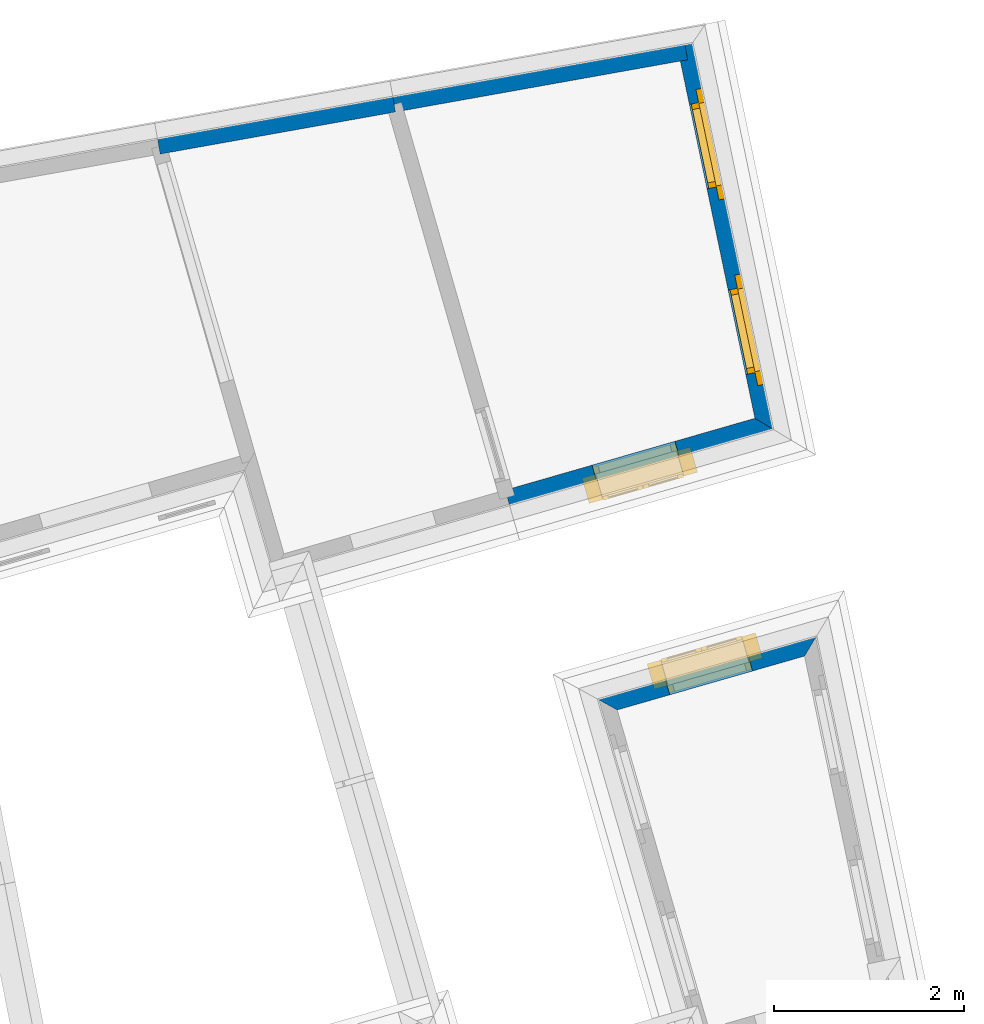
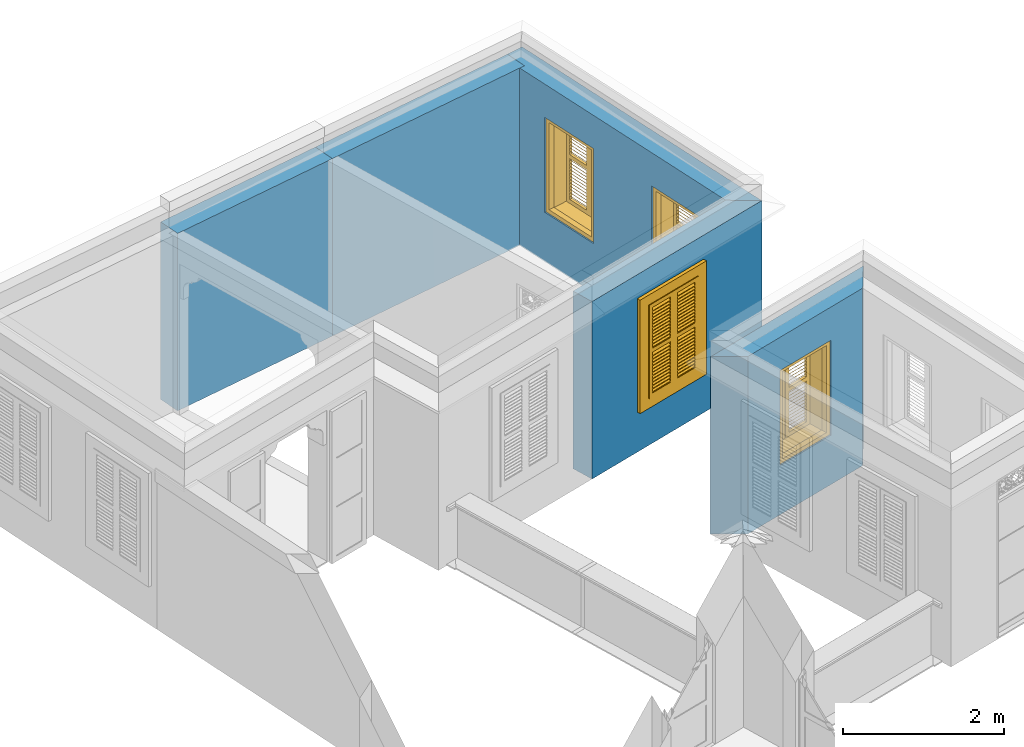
# One storey, part 18 of 22: 5 walls, 4 windows, 4 openings.
"""IFC4 building model written with IfcOpenShell, lengths in metres."""

from ifc_helpers import new_model, si_unit, frame, origin, origin_with_axes, place, context, subcontext, project, spatial, polyline, outline, extrude, faceted_brep, source, transform, mapped, material, layer, layer_set, layer_usage, type_object, type_shapes, element, fill, save


model = new_model("IFC4")

# Units and contexts
model_context = context("Model", 3, world=origin_with_axes())
body_context = subcontext(model_context, "Body", "Model", "MODEL_VIEW")
ifc_project = project(units=[si_unit("PLANEANGLEUNIT", "RADIAN"), si_unit("MASSUNIT", "GRAM", prefix="KILO"), si_unit("FORCEUNIT", "NEWTON", prefix="KILO"), si_unit("LENGTHUNIT", "METRE"), si_unit("AREAUNIT", "SQUARE_METRE"), si_unit("VOLUMEUNIT", "CUBIC_METRE")], contexts=[model_context, model_context])

# Site, building, storey
site_placement = place(None, origin_with_axes())
site = spatial("IfcSite", under=ifc_project, at=site_placement, Name="Site plot-9", CompositionType="ELEMENT")
building_placement = place(None, origin_with_axes())
building = spatial("IfcBuilding", under=site, at=building_placement, Name="Building plot-9", CompositionType="ELEMENT")
storey_placement = place(None, frame((0.0, 0.0, 2.85), z_axis=(0.0, 0.0, 1.0), x_axis=(1.0, 0.0, 0.0)))
storey = spatial("IfcBuildingStorey", under=building, at=storey_placement, Name="plot-9 1", CompositionType="ELEMENT", Elevation=2.85)

# Wall, opening, window
ifc_material_1 = material(Name="Masonry")
ifc_layer_1 = layer(ifc_material_1, 0.33, ventilated=False)
ifc_layer_set_1 = layer_set([ifc_layer_1], Name="exterior_0.08_0.25")
ifc_layer_usage_1 = layer_usage(ifc_layer_set_1, "AXIS2", "POSITIVE", -0.25)
wall_type_1 = type_object("IfcWallType", Name="exterior_0.08_0.25", PredefinedType="SOLIDWALL", material=ifc_layer_set_1)
wall_1_placement = place(storey_placement, frame((-13.1564729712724, 2.80443784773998, 0.0), z_axis=(0.0, 0.0, 1.0), x_axis=(-0.961007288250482, -0.27652304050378, 0.0)))
wall_1 = element("IfcWall", 1, at=wall_1_placement, inside=storey, type_object=wall_type_1, material=ifc_layer_usage_1, Name="exterior", context=body_context, shape_type="SweptSolid", body=[
    extrude(outline(polyline([(0.0861799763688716, 0.0800000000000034), (-0.269312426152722, -0.25), (2.47325596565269, -0.250000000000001), (2.14325596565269, 0.0799999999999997), (0.0861799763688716, 0.0800000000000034)])), origin_with_axes(), (0.0, 0.0, 1.0), 2.7),
])
opening_1_placement = place(wall_1_placement, frame((0.656627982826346, 0.0, 0.75)))
opening_1 = element("IfcOpeningElement", 2, at=opening_1_placement, cuts=wall_1, Name="My Opening", ObjectType="Opening", context=body_context, shape_type="SweptSolid", body=[
    extrude(outline(polyline([(0.0, -0.27), (0.910000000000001, -0.27), (0.910000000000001, 1.1), (1.11022302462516e-16, 1.1), (0.0, -0.27)])), origin_with_axes(), (0.0, 0.0, 1.0), 1.445),
])
window_type = type_object("IfcWindowType", Name="shuttered_shorter", PartitioningType="DOUBLE_PANEL_HORIZONTAL", PredefinedType="NOTDEFINED")
shared_shape = source(origin(), body_context, "Body", "Brep", [
    faceted_brep([(0.393, 0.0, 0.622), (0.074, 0.0, 0.622), (0.074, 0.0, 0.632), (0.393, 0.0, 0.632), (0.074, -0.04, 0.592), (0.393, -0.04, 0.592), (0.393, -0.04, 0.582), (0.074, -0.04, 0.582), (0.517, 0.0, 0.682), (0.836, 0.0, 0.682), (0.836, 0.0, 0.672), (0.517, 0.0, 0.672), (0.517, -0.04, 0.642), (0.836, -0.04, 0.642), (0.836, -0.04, 0.632), (0.517, -0.04, 0.632), (0.517, 0.0, 0.632), (0.836, 0.0, 0.632), (0.836, 0.0, 0.622), (0.517, 0.0, 0.622), (0.517, -0.04, 0.592), (0.836, -0.04, 0.592), (0.836, -0.04, 0.582), (0.517, -0.04, 0.582), (0.517, 0.0, 0.232), (0.836, 0.0, 0.232), (0.836, 0.0, 0.222), (0.517, 0.0, 0.222), (0.517, -0.04, 0.192), (0.836, -0.04, 0.192), (0.836, -0.04, 0.182), (0.517, -0.04, 0.182), (0.517, 0.0, 0.532), (0.836, 0.0, 0.532), (0.836, 0.0, 0.522), (0.517, 0.0, 0.522), (0.517, -0.04, 0.492), (0.836, -0.04, 0.492), (0.836, -0.04, 0.482), (0.517, -0.04, 0.482), (0.517, 0.0, 0.482), (0.836, 0.0, 0.482), (0.836, 0.0, 0.472), (0.517, 0.0, 0.472), (0.517, -0.04, 0.442), (0.836, -0.04, 0.442), (0.836, -0.04, 0.432), (0.517, -0.04, 0.432), (0.517, 0.0, 0.582), (0.836, 0.0, 0.582), (0.836, 0.0, 0.572), (0.517, 0.0, 0.572), (0.517, -0.04, 0.542), (0.836, -0.04, 0.542), (0.836, -0.04, 0.532), (0.517, -0.04, 0.532), (0.517, 0.0, 0.182), (0.836, 0.0, 0.182), (0.836, 0.0, 0.172), (0.517, 0.0, 0.172), (0.517, -0.04, 0.142), (0.836, -0.04, 0.142), (0.836, -0.04, 0.132), (0.517, -0.04, 0.132), (0.517, 0.0, 0.382), (0.836, 0.0, 0.382), (0.836, 0.0, 0.372), (0.517, 0.0, 0.372), (0.517, -0.04, 0.342), (0.836, -0.04, 0.342), (0.836, -0.04, 0.332), (0.517, -0.04, 0.332), (0.517, 0.0, 0.432), (0.836, 0.0, 0.432), (0.836, 0.0, 0.422), (0.517, 0.0, 0.422), (0.517, -0.04, 0.392), (0.836, -0.04, 0.392), (0.836, -0.04, 0.382), (0.517, -0.04, 0.382), (0.517, 0.0, 0.132), (0.836, 0.0, 0.132), (0.836, 0.0, 0.122), (0.517, 0.0, 0.122), (0.517, -0.04, 0.092), (0.836, -0.04, 0.092), (0.836, -0.04, 0.082), (0.517, -0.04, 0.082), (0.517, 0.0, 0.282), (0.836, 0.0, 0.282), (0.836, 0.0, 0.272), (0.517, 0.0, 0.272), (0.517, -0.04, 0.242), (0.836, -0.04, 0.242), (0.836, -0.04, 0.232), (0.517, -0.04, 0.232), (0.517, 0.0, 0.332), (0.836, 0.0, 0.332), (0.836, 0.0, 0.322), (0.517, 0.0, 0.322), (0.517, -0.04, 0.292), (0.836, -0.04, 0.292), (0.836, -0.04, 0.282), (0.517, -0.04, 0.282), (0.517, 0.0, 1.362667), (0.836, 0.0, 1.362667), (0.836, 0.0, 1.352667), (0.517, 0.0, 1.352667), (0.517, -0.04, 1.322667), (0.836, -0.04, 1.322667), (0.836, -0.04, 1.312667), (0.517, -0.04, 1.312667), (0.517, 0.0, 1.312667), (0.836, 0.0, 1.312667), (0.836, 0.0, 1.302667), (0.517, 0.0, 1.302667), (0.517, -0.04, 1.272667), (0.836, -0.04, 1.272667), (0.836, -0.04, 1.262667), (0.517, -0.04, 1.262667), (0.517, 0.0, 0.912667), (0.836, 0.0, 0.912667), (0.836, 0.0, 0.902667), (0.517, 0.0, 0.902667), (0.517, -0.04, 0.872667), (0.836, -0.04, 0.872667), (0.836, -0.04, 0.862667), (0.517, -0.04, 0.862667), (0.517, 0.0, 1.212667), (0.836, 0.0, 1.212667), (0.836, 0.0, 1.202667), (0.517, 0.0, 1.202667), (0.517, -0.04, 1.172667), (0.836, -0.04, 1.172667), (0.836, -0.04, 1.162667), (0.517, -0.04, 1.162667), (0.517, 0.0, 1.162667), (0.836, 0.0, 1.162667), (0.836, 0.0, 1.152667), (0.517, 0.0, 1.152667), (0.517, -0.04, 1.122667), (0.836, -0.04, 1.122667), (0.836, -0.04, 1.112667), (0.517, -0.04, 1.112667), (0.517, 0.0, 1.262667), (0.836, 0.0, 1.262667), (0.836, 0.0, 1.252667), (0.517, 0.0, 1.252667), (0.517, -0.04, 1.222667), (0.836, -0.04, 1.222667), (0.836, -0.04, 1.212667), (0.517, -0.04, 1.212667), (0.517, 0.0, 0.862667), (0.836, 0.0, 0.862667), (0.836, 0.0, 0.852667), (0.517, 0.0, 0.852667), (0.517, -0.04, 0.822667), (0.836, -0.04, 0.822667), (0.836, -0.04, 0.812667), (0.517, -0.04, 0.812667), (0.517, 0.0, 1.062667), (0.836, 0.0, 1.062667), (0.836, 0.0, 1.052667), (0.517, 0.0, 1.052667), (0.517, -0.04, 1.022667), (0.836, -0.04, 1.022667), (0.836, -0.04, 1.012667), (0.517, -0.04, 1.012667), (0.517, 0.0, 1.112667), (0.836, 0.0, 1.112667), (0.836, 0.0, 1.102667), (0.517, 0.0, 1.102667), (0.517, -0.04, 1.072667), (0.836, -0.04, 1.072667), (0.836, -0.04, 1.062667), (0.517, -0.04, 1.062667), (0.517, 0.0, 0.812667), (0.836, 0.0, 0.812667), (0.836, 0.0, 0.802667), (0.517, 0.0, 0.802667), (0.517, -0.04, 0.772667), (0.836, -0.04, 0.772667), (0.836, -0.04, 0.762667), (0.517, -0.04, 0.762667), (0.517, 0.0, 0.962667), (0.836, 0.0, 0.962667), (0.836, 0.0, 0.952667), (0.517, 0.0, 0.952667), (0.517, -0.04, 0.922667), (0.836, -0.04, 0.922667), (0.836, -0.04, 0.912667), (0.517, -0.04, 0.912667), (0.517, 0.0, 1.012667), (0.836, 0.0, 1.012667), (0.836, 0.0, 1.002667), (0.517, 0.0, 1.002667), (0.517, -0.04, 0.972667), (0.836, -0.04, 0.972667), (0.836, -0.04, 0.962667), (0.517, -0.04, 0.962667), (0.074, 0.0, 0.682), (0.393, 0.0, 0.682), (0.393, 0.0, 0.672), (0.074, 0.0, 0.672), (0.074, -0.04, 0.642), (0.393, -0.04, 0.642), (0.393, -0.04, 0.632), (0.074, -0.04, 0.632), (0.074, 0.0, 0.232), (0.393, 0.0, 0.232), (0.393, 0.0, 0.222), (0.074, 0.0, 0.222), (0.074, -0.04, 0.192), (0.393, -0.04, 0.192), (0.393, -0.04, 0.182), (0.074, -0.04, 0.182), (0.074, 0.0, 0.532), (0.393, 0.0, 0.532), (0.393, 0.0, 0.522), (0.074, 0.0, 0.522), (0.074, -0.04, 0.492), (0.393, -0.04, 0.492), (0.393, -0.04, 0.482), (0.074, -0.04, 0.482), (0.074, 0.0, 0.482), (0.393, 0.0, 0.482), (0.393, 0.0, 0.472), (0.074, 0.0, 0.472), (0.074, -0.04, 0.442), (0.393, -0.04, 0.442), (0.393, -0.04, 0.432), (0.074, -0.04, 0.432), (0.074, 0.0, 0.582), (0.393, 0.0, 0.582), (0.393, 0.0, 0.572), (0.074, 0.0, 0.572), (0.074, -0.04, 0.542), (0.393, -0.04, 0.542), (0.393, -0.04, 0.532), (0.074, -0.04, 0.532), (0.074, 0.0, 0.182), (0.393, 0.0, 0.182), (0.393, 0.0, 0.172), (0.074, 0.0, 0.172), (0.074, -0.04, 0.142), (0.393, -0.04, 0.142), (0.393, -0.04, 0.132), (0.074, -0.04, 0.132), (0.074, 0.0, 0.382), (0.393, 0.0, 0.382), (0.393, 0.0, 0.372), (0.074, 0.0, 0.372), (0.074, -0.04, 0.342), (0.393, -0.04, 0.342), (0.393, -0.04, 0.332), (0.074, -0.04, 0.332), (0.074, 0.0, 0.432), (0.393, 0.0, 0.432), (0.393, 0.0, 0.422), (0.074, 0.0, 0.422), (0.074, -0.04, 0.392), (0.393, -0.04, 0.392), (0.393, -0.04, 0.382), (0.074, -0.04, 0.382), (0.074, 0.0, 0.132), (0.393, 0.0, 0.132), (0.393, 0.0, 0.122), (0.074, 0.0, 0.122), (0.074, -0.04, 0.092), (0.393, -0.04, 0.092), (0.393, -0.04, 0.082), (0.074, -0.04, 0.082), (0.074, 0.0, 0.282), (0.393, 0.0, 0.282), (0.393, 0.0, 0.272), (0.074, 0.0, 0.272), (0.074, -0.04, 0.242), (0.393, -0.04, 0.242), (0.393, -0.04, 0.232), (0.074, -0.04, 0.232), (0.074, 0.0, 0.332), (0.393, 0.0, 0.332), (0.393, 0.0, 0.322), (0.074, 0.0, 0.322), (0.074, -0.04, 0.292), (0.393, -0.04, 0.292), (0.393, -0.04, 0.282), (0.074, -0.04, 0.282), (0.074, 0.0, 1.362667), (0.393, 0.0, 1.362667), (0.393, 0.0, 1.352667), (0.074, 0.0, 1.352667), (0.074, -0.04, 1.322667), (0.393, -0.04, 1.322667), (0.393, -0.04, 1.312667), (0.074, -0.04, 1.312667), (0.074, 0.0, 1.312667), (0.393, 0.0, 1.312667), (0.393, 0.0, 1.302667), (0.074, 0.0, 1.302667), (0.074, -0.04, 1.272667), (0.393, -0.04, 1.272667), (0.393, -0.04, 1.262667), (0.074, -0.04, 1.262667), (0.074, 0.0, 0.912667), (0.393, 0.0, 0.912667), (0.393, 0.0, 0.902667), (0.074, 0.0, 0.902667), (0.074, -0.04, 0.872667), (0.393, -0.04, 0.872667), (0.393, -0.04, 0.862667), (0.074, -0.04, 0.862667), (0.074, 0.0, 1.212667), (0.393, 0.0, 1.212667), (0.393, 0.0, 1.202667), (0.074, 0.0, 1.202667), (0.074, -0.04, 1.172667), (0.393, -0.04, 1.172667), (0.393, -0.04, 1.162667), (0.074, -0.04, 1.162667), (0.074, 0.0, 1.162667), (0.393, 0.0, 1.162667), (0.393, 0.0, 1.152667), (0.074, 0.0, 1.152667), (0.074, -0.04, 1.122667), (0.393, -0.04, 1.122667), (0.393, -0.04, 1.112667), (0.074, -0.04, 1.112667), (0.074, 0.0, 1.262667), (0.393, 0.0, 1.262667), (0.393, 0.0, 1.252667), (0.074, 0.0, 1.252667), (0.074, -0.04, 1.222667), (0.393, -0.04, 1.222667), (0.393, -0.04, 1.212667), (0.074, -0.04, 1.212667), (0.074, 0.0, 0.862667), (0.393, 0.0, 0.862667), (0.393, 0.0, 0.852667), (0.074, 0.0, 0.852667), (0.074, -0.04, 0.822667), (0.393, -0.04, 0.822667), (0.393, -0.04, 0.812667), (0.074, -0.04, 0.812667), (0.074, 0.0, 1.062667), (0.393, 0.0, 1.062667), (0.393, 0.0, 1.052667), (0.074, 0.0, 1.052667), (0.074, -0.04, 1.022667), (0.393, -0.04, 1.022667), (0.393, -0.04, 1.012667), (0.074, -0.04, 1.012667), (0.074, 0.0, 1.112667), (0.393, 0.0, 1.112667), (0.393, 0.0, 1.102667), (0.074, 0.0, 1.102667), (0.074, -0.04, 1.072667), (0.393, -0.04, 1.072667), (0.393, -0.04, 1.062667), (0.074, -0.04, 1.062667), (0.074, 0.0, 0.812667), (0.393, 0.0, 0.812667), (0.393, 0.0, 0.802667), (0.074, 0.0, 0.802667), (0.074, -0.04, 0.772667), (0.393, -0.04, 0.772667), (0.393, -0.04, 0.762667), (0.074, -0.04, 0.762667), (0.074, 0.0, 0.962667), (0.393, 0.0, 0.962667), (0.393, 0.0, 0.952667), (0.074, 0.0, 0.952667), (0.074, -0.04, 0.922667), (0.393, -0.04, 0.922667), (0.393, -0.04, 0.912667), (0.074, -0.04, 0.912667), (0.074, 0.0, 1.012667), (0.393, 0.0, 1.012667), (0.393, 0.0, 1.002667), (0.074, 0.0, 1.002667), (0.074, -0.04, 0.972667), (0.393, -0.04, 0.972667), (0.393, -0.04, 0.962667), (0.074, -0.04, 0.962667), (0.517, -0.04, 0.072), (0.457, -0.04, 0.012), (0.896, -0.04, 0.012), (0.836, -0.04, 0.072), (0.457, -0.04, 0.692667), (0.517, -0.04, 0.692667), (0.457, 0.0, 0.012), (0.896, 0.0, 0.012), (0.836, -0.04, 0.692667), (0.896, -0.04, 0.692667), (0.836, 0.0, 0.072), (0.517, 0.0, 0.072), (0.457, 0.0, 0.692667), (0.517, 0.0, 0.692667), (0.517, -0.04, 0.752666), (0.457, -0.04, 0.752666), (0.896, 0.0, 0.692667), (0.836, 0.0, 0.692667), (0.836, -0.04, 0.752666), (0.896, -0.04, 0.752666), (0.457, 0.0, 0.752666), (0.457, -0.04, 1.433333), (0.517, -0.04, 1.373333), (0.896, 0.0, 0.752666), (0.836, -0.04, 1.373333), (0.896, -0.04, 1.433333), (0.457, 0.0, 1.433333), (0.517, 0.0, 0.752666), (0.836, 0.0, 0.752666), (0.517, 0.0, 1.373333), (0.896, 0.0, 1.433333), (0.836, 0.0, 1.373333), (0.074, -0.04, 0.072), (0.014, -0.04, 0.012), (0.453, -0.04, 0.012), (0.393, -0.04, 0.072), (0.014, -0.04, 0.692667), (0.074, -0.04, 0.692667), (0.014, 0.0, 0.012), (0.453, 0.0, 0.012), (0.393, -0.04, 0.692667), (0.453, -0.04, 0.692667), (0.393, 0.0, 0.072), (0.074, 0.0, 0.072), (0.014, 0.0, 0.692667), (0.074, 0.0, 0.692667), (0.074, -0.04, 0.752666), (0.014, -0.04, 0.752666), (0.453, 0.0, 0.692667), (0.393, 0.0, 0.692667), (0.393, -0.04, 0.752666), (0.453, -0.04, 0.752666), (0.014, 0.0, 0.752666), (0.014, -0.04, 1.433333), (0.074, -0.04, 1.373333), (0.453, 0.0, 0.752666), (0.393, -0.04, 1.373333), (0.453, -0.04, 1.433333), (0.014, 0.0, 1.433333), (0.074, 0.0, 0.752666), (0.393, 0.0, 0.752666), (0.074, 0.0, 1.373333), (0.453, 0.0, 1.433333), (0.393, 0.0, 1.373333), (0.0, 0.33, 1.445), (0.91, 0.33, 1.445), (0.85, 0.33, 1.385), (0.06, 0.33, 1.385), (0.91, 0.25, 1.445), (0.0, 0.25, 1.445), (0.91, 0.25, 1.445), (0.85, 0.33, 0.06), (0.91, 0.33, 0.0), (0.85, 0.25, 1.385), (0.06, 0.25, 1.385), (0.0, 0.33, 0.0), (0.06, 0.33, 0.06), (0.0, 0.25, 0.0), (0.91, 0.25, 0.0), (0.85, 0.25, 0.06), (0.06, 0.25, 0.06), (1.05, 0.25, 1.585), (-0.14, 0.25, 1.585), (-0.14, -0.03, 1.585), (1.05, -0.03, 1.585), (0.9, -0.03, 1.435), (0.01, -0.03, 1.435), (0.01, 0.25, 1.435), (0.9, 0.25, 1.435), (0.9, 0.25, 0.01), (0.9, -0.03, 0.01), (1.05, -0.03, -0.14), (1.05, 0.25, -0.14), (0.01, -0.03, 0.01), (0.01, 0.25, 0.01), (-0.14, -0.03, -0.14), (-0.14, 0.25, -0.14)], [[[0, 1, 2, 3]], [[4, 5, 3, 2]], [[5, 6, 0, 3]], [[1, 0, 6, 7]], [[2, 1, 7, 4]], [[5, 4, 7, 6]], [[8, 9, 10, 11]], [[12, 13, 9, 8]], [[13, 14, 10, 9]], [[14, 15, 11, 10]], [[15, 12, 8, 11]], [[13, 12, 15, 14]], [[16, 17, 18, 19]], [[20, 21, 17, 16]], [[21, 22, 18, 17]], [[22, 23, 19, 18]], [[23, 20, 16, 19]], [[21, 20, 23, 22]], [[24, 25, 26, 27]], [[28, 29, 25, 24]], [[29, 30, 26, 25]], [[30, 31, 27, 26]], [[31, 28, 24, 27]], [[29, 28, 31, 30]], [[32, 33, 34, 35]], [[36, 37, 33, 32]], [[37, 38, 34, 33]], [[38, 39, 35, 34]], [[39, 36, 32, 35]], [[37, 36, 39, 38]], [[40, 41, 42, 43]], [[44, 45, 41, 40]], [[45, 46, 42, 41]], [[46, 47, 43, 42]], [[47, 44, 40, 43]], [[45, 44, 47, 46]], [[48, 49, 50, 51]], [[52, 53, 49, 48]], [[53, 54, 50, 49]], [[54, 55, 51, 50]], [[55, 52, 48, 51]], [[53, 52, 55, 54]], [[56, 57, 58, 59]], [[60, 61, 57, 56]], [[61, 62, 58, 57]], [[62, 63, 59, 58]], [[63, 60, 56, 59]], [[61, 60, 63, 62]], [[64, 65, 66, 67]], [[68, 69, 65, 64]], [[69, 70, 66, 65]], [[70, 71, 67, 66]], [[71, 68, 64, 67]], [[69, 68, 71, 70]], [[72, 73, 74, 75]], [[76, 77, 73, 72]], [[77, 78, 74, 73]], [[78, 79, 75, 74]], [[79, 76, 72, 75]], [[77, 76, 79, 78]], [[80, 81, 82, 83]], [[84, 85, 81, 80]], [[85, 86, 82, 81]], [[86, 87, 83, 82]], [[87, 84, 80, 83]], [[85, 84, 87, 86]], [[88, 89, 90, 91]], [[92, 93, 89, 88]], [[93, 94, 90, 89]], [[94, 95, 91, 90]], [[95, 92, 88, 91]], [[93, 92, 95, 94]], [[96, 97, 98, 99]], [[100, 101, 97, 96]], [[101, 102, 98, 97]], [[102, 103, 99, 98]], [[103, 100, 96, 99]], [[101, 100, 103, 102]], [[104, 105, 106, 107]], [[108, 109, 105, 104]], [[109, 110, 106, 105]], [[110, 111, 107, 106]], [[111, 108, 104, 107]], [[109, 108, 111, 110]], [[112, 113, 114, 115]], [[116, 117, 113, 112]], [[117, 118, 114, 113]], [[118, 119, 115, 114]], [[119, 116, 112, 115]], [[117, 116, 119, 118]], [[120, 121, 122, 123]], [[124, 125, 121, 120]], [[125, 126, 122, 121]], [[126, 127, 123, 122]], [[127, 124, 120, 123]], [[125, 124, 127, 126]], [[128, 129, 130, 131]], [[132, 133, 129, 128]], [[133, 134, 130, 129]], [[134, 135, 131, 130]], [[135, 132, 128, 131]], [[133, 132, 135, 134]], [[136, 137, 138, 139]], [[140, 141, 137, 136]], [[141, 142, 138, 137]], [[142, 143, 139, 138]], [[139, 143, 140, 136]], [[141, 140, 143, 142]], [[144, 145, 146, 147]], [[148, 149, 145, 144]], [[149, 150, 146, 145]], [[150, 151, 147, 146]], [[151, 148, 144, 147]], [[149, 148, 151, 150]], [[152, 153, 154, 155]], [[156, 157, 153, 152]], [[157, 158, 154, 153]], [[158, 159, 155, 154]], [[159, 156, 152, 155]], [[157, 156, 159, 158]], [[160, 161, 162, 163]], [[164, 165, 161, 160]], [[165, 166, 162, 161]], [[166, 167, 163, 162]], [[167, 164, 160, 163]], [[165, 164, 167, 166]], [[168, 169, 170, 171]], [[172, 173, 169, 168]], [[173, 174, 170, 169]], [[174, 175, 171, 170]], [[175, 172, 168, 171]], [[173, 172, 175, 174]], [[176, 177, 178, 179]], [[180, 181, 177, 176]], [[181, 182, 178, 177]], [[182, 183, 179, 178]], [[183, 180, 176, 179]], [[181, 180, 183, 182]], [[184, 185, 186, 187]], [[188, 189, 185, 184]], [[189, 190, 186, 185]], [[190, 191, 187, 186]], [[191, 188, 184, 187]], [[189, 188, 191, 190]], [[192, 193, 194, 195]], [[196, 197, 193, 192]], [[197, 198, 194, 193]], [[198, 199, 195, 194]], [[199, 196, 192, 195]], [[197, 196, 199, 198]], [[200, 201, 202, 203]], [[204, 205, 201, 200]], [[205, 206, 202, 201]], [[206, 207, 203, 202]], [[207, 204, 200, 203]], [[205, 204, 207, 206]], [[208, 209, 210, 211]], [[212, 213, 209, 208]], [[213, 214, 210, 209]], [[214, 215, 211, 210]], [[215, 212, 208, 211]], [[213, 212, 215, 214]], [[216, 217, 218, 219]], [[220, 221, 217, 216]], [[221, 222, 218, 217]], [[222, 223, 219, 218]], [[223, 220, 216, 219]], [[221, 220, 223, 222]], [[224, 225, 226, 227]], [[228, 229, 225, 224]], [[229, 230, 226, 225]], [[230, 231, 227, 226]], [[231, 228, 224, 227]], [[229, 228, 231, 230]], [[232, 233, 234, 235]], [[236, 237, 233, 232]], [[237, 238, 234, 233]], [[238, 239, 235, 234]], [[239, 236, 232, 235]], [[237, 236, 239, 238]], [[240, 241, 242, 243]], [[244, 245, 241, 240]], [[245, 246, 242, 241]], [[246, 247, 243, 242]], [[247, 244, 240, 243]], [[245, 244, 247, 246]], [[248, 249, 250, 251]], [[252, 253, 249, 248]], [[253, 254, 250, 249]], [[254, 255, 251, 250]], [[255, 252, 248, 251]], [[253, 252, 255, 254]], [[256, 257, 258, 259]], [[260, 261, 257, 256]], [[261, 262, 258, 257]], [[262, 263, 259, 258]], [[263, 260, 256, 259]], [[261, 260, 263, 262]], [[264, 265, 266, 267]], [[268, 269, 265, 264]], [[269, 270, 266, 265]], [[270, 271, 267, 266]], [[271, 268, 264, 267]], [[269, 268, 271, 270]], [[272, 273, 274, 275]], [[276, 277, 273, 272]], [[277, 278, 274, 273]], [[278, 279, 275, 274]], [[279, 276, 272, 275]], [[277, 276, 279, 278]], [[280, 281, 282, 283]], [[284, 285, 281, 280]], [[285, 286, 282, 281]], [[286, 287, 283, 282]], [[287, 284, 280, 283]], [[285, 284, 287, 286]], [[288, 289, 290, 291]], [[292, 293, 289, 288]], [[293, 294, 290, 289]], [[294, 295, 291, 290]], [[295, 292, 288, 291]], [[293, 292, 295, 294]], [[296, 297, 298, 299]], [[300, 301, 297, 296]], [[301, 302, 298, 297]], [[302, 303, 299, 298]], [[303, 300, 296, 299]], [[301, 300, 303, 302]], [[304, 305, 306, 307]], [[308, 309, 305, 304]], [[309, 310, 306, 305]], [[310, 311, 307, 306]], [[311, 308, 304, 307]], [[309, 308, 311, 310]], [[312, 313, 314, 315]], [[316, 317, 313, 312]], [[317, 318, 314, 313]], [[318, 319, 315, 314]], [[319, 316, 312, 315]], [[317, 316, 319, 318]], [[320, 321, 322, 323]], [[324, 325, 321, 320]], [[325, 326, 322, 321]], [[326, 327, 323, 322]], [[327, 324, 320, 323]], [[325, 324, 327, 326]], [[328, 329, 330, 331]], [[332, 333, 329, 328]], [[333, 334, 330, 329]], [[334, 335, 331, 330]], [[335, 332, 328, 331]], [[333, 332, 335, 334]], [[336, 337, 338, 339]], [[340, 341, 337, 336]], [[341, 342, 338, 337]], [[342, 343, 339, 338]], [[343, 340, 336, 339]], [[341, 340, 343, 342]], [[344, 345, 346, 347]], [[348, 349, 345, 344]], [[349, 350, 346, 345]], [[350, 351, 347, 346]], [[351, 348, 344, 347]], [[349, 348, 351, 350]], [[352, 353, 354, 355]], [[356, 357, 353, 352]], [[357, 358, 354, 353]], [[358, 359, 355, 354]], [[359, 356, 352, 355]], [[357, 356, 359, 358]], [[360, 361, 362, 363]], [[364, 365, 361, 360]], [[365, 366, 362, 361]], [[366, 367, 363, 362]], [[367, 364, 360, 363]], [[365, 364, 367, 366]], [[368, 369, 370, 371]], [[372, 373, 369, 368]], [[373, 374, 370, 369]], [[374, 375, 371, 370]], [[375, 372, 368, 371]], [[373, 372, 375, 374]], [[376, 377, 378, 379]], [[380, 381, 377, 376]], [[381, 382, 378, 377]], [[382, 383, 379, 378]], [[383, 380, 376, 379]], [[381, 380, 383, 382]], [[384, 385, 386, 387]], [[388, 385, 384, 389]], [[390, 391, 386, 385]], [[392, 387, 386, 393]], [[384, 387, 394, 395]], [[390, 385, 388, 396]], [[389, 384, 395, 397]], [[389, 398, 399, 388]], [[390, 395, 394, 391]], [[400, 393, 386, 391]], [[387, 392, 401, 394]], [[402, 392, 393, 403]], [[396, 388, 399, 404]], [[390, 396, 397, 395]], [[392, 389, 397, 401]], [[398, 389, 392, 402]], [[405, 399, 398, 406]], [[394, 401, 400, 391]], [[407, 403, 393, 400]], [[408, 402, 403, 409]], [[404, 399, 405, 410]], [[411, 397, 396, 404]], [[397, 411, 412, 401]], [[398, 402, 412, 411]], [[406, 398, 411, 413]], [[405, 406, 408, 409]], [[401, 412, 407, 400]], [[414, 409, 403, 407]], [[402, 408, 415, 412]], [[405, 409, 414, 410]], [[404, 410, 413, 411]], [[408, 406, 413, 415]], [[412, 415, 414, 407]], [[413, 410, 414, 415]], [[416, 417, 418, 419]], [[420, 417, 416, 421]], [[422, 423, 418, 417]], [[424, 419, 418, 425]], [[416, 419, 426, 427]], [[422, 417, 420, 428]], [[421, 416, 427, 429]], [[421, 430, 431, 420]], [[422, 427, 426, 423]], [[432, 425, 418, 423]], [[419, 424, 433, 426]], [[434, 424, 425, 435]], [[428, 420, 431, 436]], [[422, 428, 429, 427]], [[424, 421, 429, 433]], [[430, 421, 424, 434]], [[437, 431, 430, 438]], [[426, 433, 432, 423]], [[439, 435, 425, 432]], [[440, 434, 435, 441]], [[436, 431, 437, 442]], [[443, 429, 428, 436]], [[429, 443, 444, 433]], [[430, 434, 444, 443]], [[438, 430, 443, 445]], [[437, 438, 440, 441]], [[433, 444, 439, 432]], [[446, 441, 435, 439]], [[434, 440, 447, 444]], [[437, 441, 446, 442]], [[436, 442, 445, 443]], [[440, 438, 445, 447]], [[444, 447, 446, 439]], [[445, 442, 446, 447]], [[448, 449, 450, 451]], [[452, 449, 448]], [[448, 453, 454]], [[448, 454, 452]], [[455, 450, 449, 456]], [[451, 450, 457, 458]], [[459, 448, 451, 460]], [[448, 459, 461, 453]], [[454, 453, 458, 457]], [[462, 452, 454]], [[454, 457, 463]], [[454, 463, 462]], [[456, 449, 452, 462]], [[450, 455, 463, 457]], [[456, 459, 460, 455]], [[460, 451, 458, 464]], [[459, 456, 462, 461]], [[464, 458, 453, 461]], [[461, 462, 463, 464]], [[455, 460, 464, 463]], [[465, 466, 467, 468]], [[469, 470, 471, 472]], [[473, 474, 469, 472]], [[465, 468, 475, 476]], [[470, 477, 478, 471]], [[474, 473, 478, 477]], [[474, 477, 479, 475]], [[470, 467, 479, 477]], [[470, 469, 468, 467]], [[474, 475, 468, 469]], [[471, 478, 480, 466]], [[473, 472, 465, 476]], [[473, 476, 480, 478]], [[466, 465, 472, 471]], [[480, 476, 475, 479]], [[480, 479, 467, 466]]]),
])
type_shapes(window_type, [shared_shape])
window_1_placement = place(storey_placement, frame((-13.8621584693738, 2.88233704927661, 0.75), z_axis=(0.0, 0.0, 1.0), x_axis=(-0.874516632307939, -0.25163596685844, 0.0)))
window_1 = element("IfcWindow", 3, at=window_1_placement, inside=storey, type_object=window_type, Name="bedroom outside window", OverallHeight=1.445, OverallWidth=0.91, context=body_context, shape_type="MappedRepresentation", body=[
    mapped(shared_shape, transform((0.0, 0.0, 0.0), scale=1.0)),
])
fill(opening_1, window_1)

wall_2_placement = place(storey_placement, frame((-16.3540950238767, 4.37730358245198, 0.0), z_axis=(0.0, 0.0, 1.0), x_axis=(0.961007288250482, 0.276523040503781, 0.0)))
wall_2 = element("IfcWall", 4, at=wall_2_placement, inside=storey, type_object=wall_type_1, material=ifc_layer_usage_1, Name="exterior", context=body_context, shape_type="SweptSolid", body=[
    extrude(outline(polyline([(-2.43791370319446e-16, 0.0800000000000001), (-1.42798184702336e-15, -0.25), (3.04851232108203, -0.25), (2.74217666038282, 0.0799999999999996), (-2.43791370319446e-16, 0.0800000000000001)])), origin_with_axes(), (0.0, 0.0, 1.0), 2.7),
])
opening_2_placement = place(wall_2_placement, frame((0.953219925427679, 0.0, 0.75)))
opening_2 = element("IfcOpeningElement", 5, at=opening_2_placement, cuts=wall_2, Name="My Opening", ObjectType="Opening", context=body_context, shape_type="SweptSolid", body=[
    extrude(outline(polyline([(0.0, -0.27), (0.910000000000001, -0.27), (0.910000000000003, 1.1), (1.33226762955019e-15, 1.1), (0.0, -0.27)])), origin_with_axes(), (0.0, 0.0, 1.0), 1.445),
])
window_2_placement = place(storey_placement, frame((-15.3633825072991, 4.3814188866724, 0.75), z_axis=(0.0, 0.0, 1.0), x_axis=(0.874516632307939, 0.251635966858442, 0.0)))
window_2 = element("IfcWindow", 6, at=window_2_placement, inside=storey, type_object=window_type, Name="bedroom outside window", OverallHeight=1.445, OverallWidth=0.91, context=body_context, shape_type="MappedRepresentation", body=[
    mapped(shared_shape, transform((0.0, 0.0, 0.0), scale=1.0)),
])
fill(opening_2, window_2)

# Wall, openings, windows
wall_3_placement = place(storey_placement, frame((-13.6474758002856, 5.15611409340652, 0.0), z_axis=(0.0, 0.0, 1.0), x_axis=(-0.204381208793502, 0.978891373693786, 0.0)))
wall_3 = element("IfcWall", 7, at=wall_3_placement, inside=storey, type_object=wall_type_1, material=ifc_layer_usage_1, Name="exterior", context=body_context, shape_type="SweptSolid", body=[
    extrude(outline(polyline([(0.0742631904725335, 0.0800000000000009), (-0.232072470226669, -0.249999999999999), (4.25243090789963, -0.25), (4.25243090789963, 0.0799999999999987), (0.0742631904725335, 0.0800000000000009)])), origin_with_axes(), (0.0, 0.0, 1.0), 2.7),
])
opening_3_placement = place(wall_3_placement, frame((0.545607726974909, 0.0, 0.75)))
opening_3 = element("IfcOpeningElement", 8, at=opening_3_placement, cuts=wall_3, Name="My Opening", ObjectType="Opening", context=body_context, shape_type="SweptSolid", body=[
    extrude(outline(polyline([(0.0, -0.27), (0.91, -0.27), (0.909999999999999, 1.1), (-4.44089209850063e-16, 1.1), (0.0, -0.27)])), origin_with_axes(), (0.0, 0.0, 1.0), 1.445),
])
opening_4_placement = place(wall_3_placement, frame((2.54682318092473, 0.0, 0.75)))
opening_4 = element("IfcOpeningElement", 9, at=opening_4_placement, cuts=wall_3, Name="My Opening", ObjectType="Opening", context=body_context, shape_type="SweptSolid", body=[
    extrude(outline(polyline([(0.0, -0.27), (0.91, -0.27), (0.910000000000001, 1.1), (-4.44089209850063e-16, 1.1), (0.0, -0.27)])), origin_with_axes(), (0.0, 0.0, 1.0), 1.445),
])
window_3_placement = place(storey_placement, frame((-13.4946870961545, 5.74538771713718, 0.75), z_axis=(0.0, 0.0, 1.0), x_axis=(-0.185986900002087, 0.890791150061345, 0.0)))
window_3 = element("IfcWindow", 10, at=window_3_placement, inside=storey, type_object=window_type, Name="bedroom outside window", OverallHeight=1.445, OverallWidth=0.91, context=body_context, shape_type="MappedRepresentation", body=[
    mapped(shared_shape, transform((0.0, 0.0, 0.0), scale=1.0)),
])
fill(opening_3, window_3)
window_4_placement = place(storey_placement, frame((-13.903697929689, 7.70436026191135, 0.75), z_axis=(0.0, 0.0, 1.0), x_axis=(-0.185986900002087, 0.890791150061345, 0.0)))
window_4 = element("IfcWindow", 11, at=window_4_placement, inside=storey, type_object=window_type, Name="bedroom outside window", OverallHeight=1.445, OverallWidth=0.91, context=body_context, shape_type="MappedRepresentation", body=[
    mapped(shared_shape, transform((0.0, 0.0, 0.0), scale=1.0)),
])
fill(opening_4, window_4)

# Walls
ifc_material_2 = material(Name="Masonry")
ifc_layer_2 = layer(ifc_material_2, 0.33, ventilated=False)
ifc_layer_set_2 = layer_set([ifc_layer_2], Name="party_0.08_0.25")
ifc_layer_usage_2 = layer_usage(ifc_layer_set_2, "AXIS2", "POSITIVE", -0.25)
wall_type_2 = type_object("IfcWallType", Name="party_0.08_0.25", PredefinedType="SOLIDWALL", material=ifc_layer_set_2)
wall_4_placement = place(storey_placement, frame((-14.4654974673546, 9.07405918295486, 0.0), z_axis=(0.0, 0.0, 1.0), x_axis=(-0.984393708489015, -0.175980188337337, 0.0)))
element("IfcWall", 12, at=wall_4_placement, inside=storey, type_object=wall_type_2, material=ifc_layer_usage_2, Name="party", context=body_context, shape_type="SweptSolid", body=[
    extrude(outline(polyline([(4.11629879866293e-16, 0.0800000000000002), (-7.61848032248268e-16, -0.25), (3.13039557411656, -0.25), (3.13039557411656, 0.0800000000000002), (4.11629879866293e-16, 0.0800000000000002)])), origin_with_axes(), (0.0, 0.0, 1.0), 2.7),
])
wall_5_placement = place(storey_placement, frame((-17.5470391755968, 8.52317158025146, 0.0), z_axis=(0.0, 0.0, 1.0), x_axis=(-0.984393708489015, -0.175980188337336, 0.0)))
element("IfcWall", 13, at=wall_5_placement, inside=storey, type_object=wall_type_2, material=ifc_layer_usage_2, Name="party", context=body_context, shape_type="SweptSolid", body=[
    extrude(outline(polyline([(2.69521332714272e-16, 0.0800000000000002), (-4.28781124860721e-16, -0.25), (2.52207926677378, -0.25), (2.52207926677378, 0.0800000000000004), (2.69521332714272e-16, 0.0800000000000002)])), origin_with_axes(), (0.0, 0.0, 1.0), 2.7),
])

save(model, "model.ifc")
